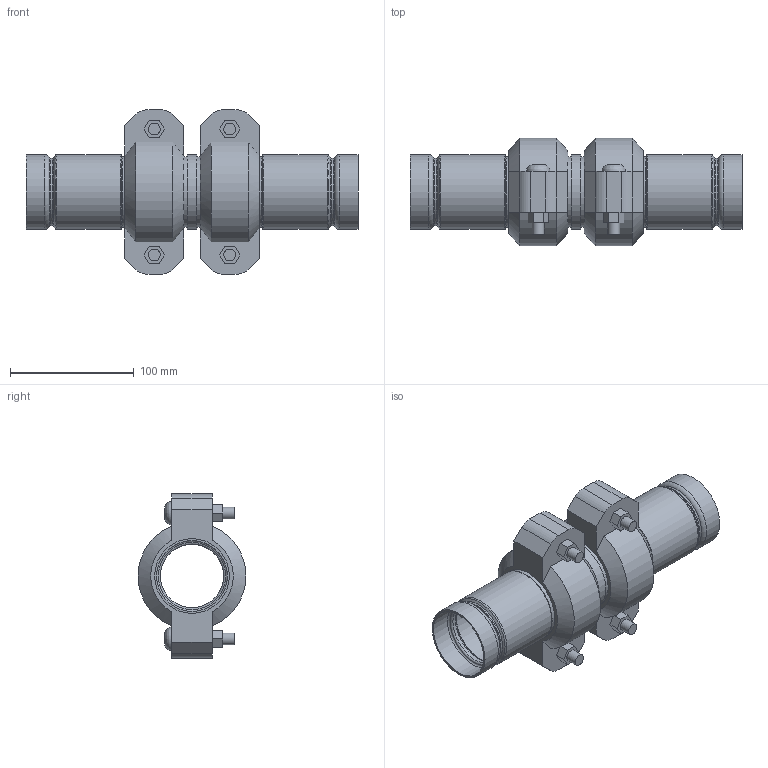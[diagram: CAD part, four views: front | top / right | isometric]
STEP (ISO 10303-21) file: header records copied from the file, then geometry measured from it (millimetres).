
FILE_DESCRIPTION(/* description */ ('VIC STRENGTHIN 100 EXPANSION JOINT 2 COUPLINGS EXPANDED STYLE E155 (ST1)','CAx-IF Rec.Pracs.---Representation and Presentation of Product Manufacturing Information (PMI)---4.0---2014-10-13'),/* implementation_level */ '2;1');
FILE_NAME(/* name */ 'C:\Users\Vjadhav\AppData\Roaming\Autodesk\ApplicationPlugins\Victaulic.Temp\A901\Victaulic_SS-StrengThin 100_Expansion Joint_Expanded_2 Couplings_Style E155 (ST1)_2 (50).stp',/* time_stamp */ '2021-07-23T19:26:48+06:00',/* author */ ('kkamble'),/* organization */ ('Victaulic'),/* preprocessor_version */ 'ST-DEVELOPER v17.2',/* originating_system */ 'Autodesk Inventor 2019',/* authorisation */ '');
FILE_SCHEMA (('AP242_MANAGED_MODEL_BASED_3D_ENGINEERING_MIM_LF { 1 0 10303 442 1 1 4 }'));
Length unit declared in the file: inch
Products named in the file (4): E155-02.0; E494G-02.0; Nipple-02.0; 075-02.0
Assembly tree (5 placements, depth 2):
  E155-02.0
    E494G-02.0  x2
    Nipple-02.0
    075-02.0  x2
Bounding box: 267.97 x 87.12 x 132.59 mm (x, y, z)
Volume: 498017.7 mm3; surface area: 180905 mm2
Topology: 5 solids, 9 shells, 194 faces, 518 edges, 370 vertices
Faces by surface type: plane 90, cylinder 56, torus 32, cone 12, bspline 4
Full cylindrical faces by diameter (mm): 9.525 x8, 11.43 x4, 51.13 x2, 52.502 x1, 53.95 x2, 53.975 x2, 54.331 x2, 57.125 x6, 57.15 x4, 60.325 x13
Entity records: 3702 total; most frequent: DIRECTION 653, CARTESIAN_POINT 651, ORIENTED_EDGE 548, AXIS2_PLACEMENT_3D 277, EDGE_CURVE 274, VERTEX_POINT 197, CIRCLE 167, EDGE_LOOP 129
